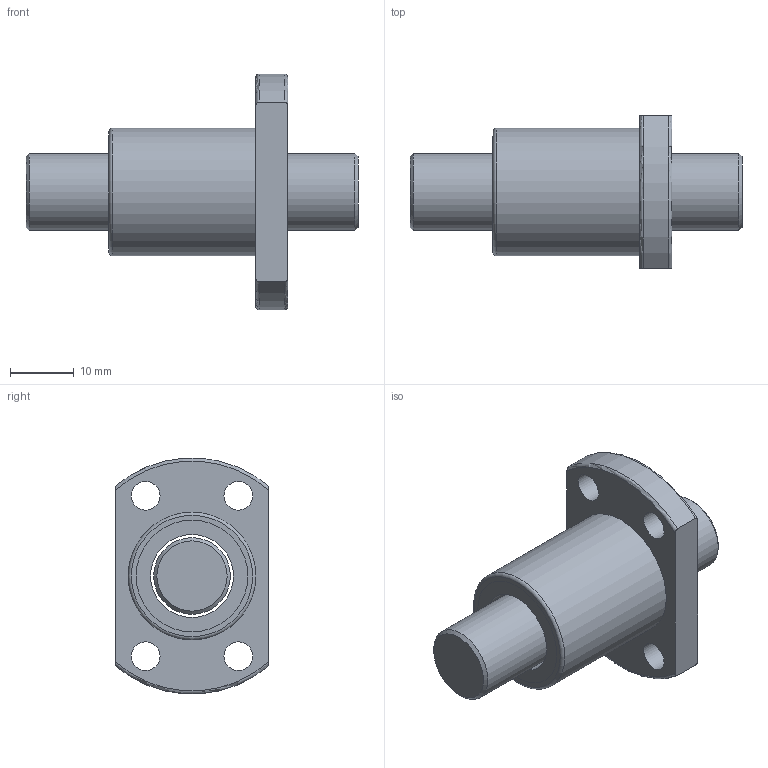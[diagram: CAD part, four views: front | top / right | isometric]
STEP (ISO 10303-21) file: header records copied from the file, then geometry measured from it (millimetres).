
FILE_DESCRIPTION(/* description */ (''),/* implementation_level */ '2;1');
FILE_NAME(/* name */ 'SFK1202',/* time_stamp */ '2007-10-26T10:41:18+08:00',/* author */ (''),/* organization */ (''),/* preprocessor_version */ 'ST-DEVELOPER v9',/* originating_system */ 'EDS PLM SOLUTIONS - UNIGRAPHICS NX 1.0',/* authorisation */ '');
FILE_SCHEMA (('CONFIG_CONTROL_DESIGN'));
Length unit declared in the file: millimetre
Products named in the file (1): FANNDA0400ce
Bounding box: 52 x 24 x 36.89 mm (x, y, z)
Volume: 13159.2 mm3; surface area: 8101.6 mm2
Topology: 4 solids, 4 shells, 35 faces, 69 edges, 45 vertices
Faces by surface type: cylinder 15, plane 13, torus 5, cone 2
Full cylindrical faces by diameter (mm): 4.5 x4, 12 x1, 13 x3, 17.5 x4, 20 x1
Entity records: 1072 total; most frequent: CARTESIAN_POINT 278, DIRECTION 154, ORIENTED_EDGE 106, AXIS2_PLACEMENT_3D 73, EDGE_LOOP 68, EDGE_CURVE 53, FACE_BOUND 47, VERTEX_POINT 45
